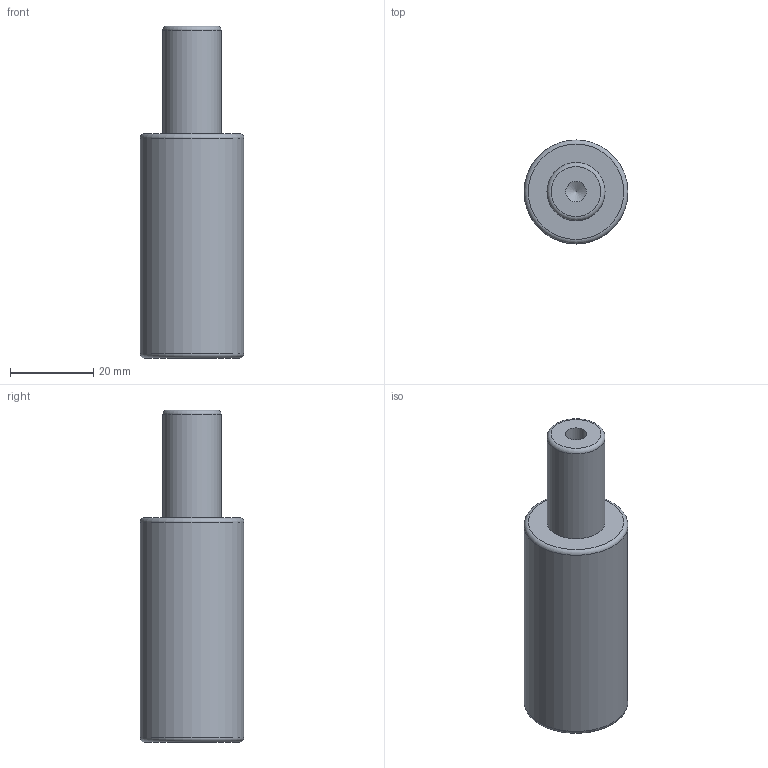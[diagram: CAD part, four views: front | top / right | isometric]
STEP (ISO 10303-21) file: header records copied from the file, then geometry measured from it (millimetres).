
FILE_DESCRIPTION(/* description */ (''),/* implementation_level */ '2;1');
FILE_NAME(/* name */ 'NV5-SMLX.25x25.stp',/* time_stamp */ '2018-08-31T16:08:38+02:00',/* author */ (''),/* organization */ (''),/* preprocessor_version */ 'ST-DEVELOPER v16',/* originating_system */ 'SIEMENS PLM Software NX 10.0',/* authorisation */ '');
FILE_SCHEMA (('AUTOMOTIVE_DESIGN { 1 0 10303 214 3 1 1 1 }'));
Length unit declared in the file: millimetre
Products named in the file (1): NV5-SMLX.25x25
Bounding box: 25 x 25 x 80 mm (x, y, z)
Volume: 30015.7 mm3; surface area: 6630.9 mm2
Topology: 1 solids, 1 shells, 12 faces, 24 edges, 15 vertices
Faces by surface type: cylinder 4, torus 3, plane 3, cone 2
Full cylindrical faces by diameter (mm): 5 x2, 14 x1, 25 x1
Entity records: 266 total; most frequent: DIRECTION 48, CARTESIAN_POINT 37, FACE_BOUND 24, AXIS2_PLACEMENT_3D 24, EDGE_LOOP 22, ORIENTED_EDGE 22, VERTEX_POINT 13, ADVANCED_FACE 12
